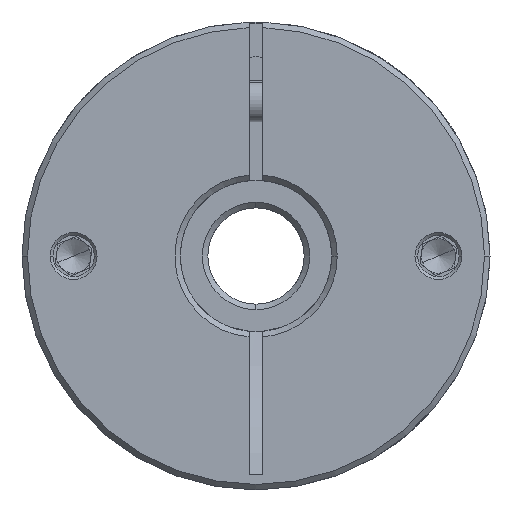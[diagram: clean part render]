
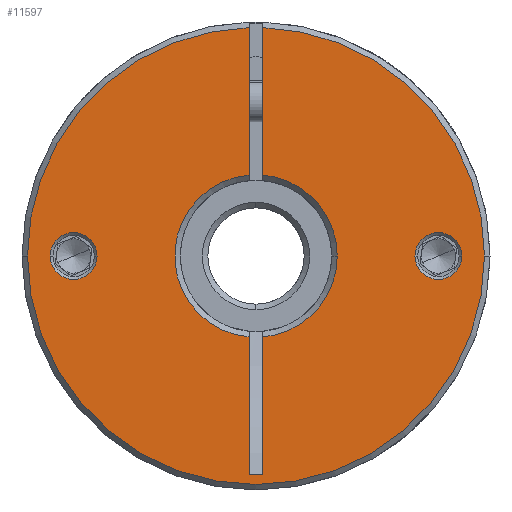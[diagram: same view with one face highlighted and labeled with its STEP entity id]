
A CAD part, front view. The second image highlights one B-rep face of the part: STEP entity #11597.
In plain terms, the highlighted planar face has unit normal (0, -1, 0).
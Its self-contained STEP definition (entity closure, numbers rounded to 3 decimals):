
#175 = CARTESIAN_POINT ( 'NONE',  ( 9.065, -47.045, 68. ) ) ;
#301 = AXIS2_PLACEMENT_3D ( 'NONE', #306, #9563, #11769 ) ;
#306 = CARTESIAN_POINT ( 'NONE',  ( -2.735, -47.045, 68. ) ) ;
#312 = DIRECTION ( 'NONE',  ( 1., 0., 0. ) ) ;
#363 = VERTEX_POINT ( 'NONE', #12002 ) ;
#426 = VERTEX_POINT ( 'NONE', #5881 ) ;
#477 = ORIENTED_EDGE ( 'NONE', *, *, #3229, .T. ) ;
#646 = FACE_OUTER_BOUND ( 'NONE', #4976, .T. ) ;
#742 = CARTESIAN_POINT ( 'NONE',  ( -29.235, -47.045, 68. ) ) ;
#759 = AXIS2_PLACEMENT_3D ( 'NONE', #6742, #11030, #4804 ) ;
#805 = CARTESIAN_POINT ( 'NONE',  ( -3.735, -47.045, 68. ) ) ;
#834 = AXIS2_PLACEMENT_3D ( 'NONE', #742, #7193, #2922 ) ;
#862 = DIRECTION ( 'NONE',  ( 1., 0., 0. ) ) ;
#958 = CARTESIAN_POINT ( 'NONE',  ( -1.735, -47.045, 68. ) ) ;
#967 = VERTEX_POINT ( 'NONE', #11043 ) ;
#997 = CARTESIAN_POINT ( 'NONE',  ( -3.735, -47.045, 79.758 ) ) ;
#1101 = ORIENTED_EDGE ( 'NONE', *, *, #5874, .T. ) ;
#1252 = VERTEX_POINT ( 'NONE', #2506 ) ;
#1343 = PLANE ( 'NONE',  #12294 ) ;
#1367 = LINE ( 'NONE', #805, #11621 ) ;
#1665 = VERTEX_POINT ( 'NONE', #7131 ) ;
#1722 = CARTESIAN_POINT ( 'NONE',  ( -35.935, -47.045, 68. ) ) ;
#1723 = CARTESIAN_POINT ( 'NONE',  ( -1.735, -47.045, 56.242 ) ) ;
#1815 = CIRCLE ( 'NONE', #3625, 3.4 ) ;
#2154 = CIRCLE ( 'NONE', #11571, 3.4 ) ;
#2387 = CARTESIAN_POINT ( 'NONE',  ( -1.735, -47.045, 79.758 ) ) ;
#2422 = CARTESIAN_POINT ( 'NONE',  ( -2.735, -47.045, 68. ) ) ;
#2506 = CARTESIAN_POINT ( 'NONE',  ( -1.735, -47.045, 101.185 ) ) ;
#2617 = AXIS2_PLACEMENT_3D ( 'NONE', #2969, #12305, #8149 ) ;
#2747 = AXIS2_PLACEMENT_3D ( 'NONE', #12791, #3386, #312 ) ;
#2922 = DIRECTION ( 'NONE',  ( 1., 0., 0. ) ) ;
#2969 = CARTESIAN_POINT ( 'NONE',  ( -29.235, -47.045, 68. ) ) ;
#3229 = EDGE_CURVE ( 'NONE', #12648, #6741, #4958, .T. ) ;
#3386 = DIRECTION ( 'NONE',  ( 0., -1., 0. ) ) ;
#3459 = CARTESIAN_POINT ( 'NONE',  ( -3.735, -47.045, 101.185 ) ) ;
#3586 = DIRECTION ( 'NONE',  ( 0., -1., 0. ) ) ;
#3625 = AXIS2_PLACEMENT_3D ( 'NONE', #8136, #8093, #4025 ) ;
#3788 = CIRCLE ( 'NONE', #301, 11.8 ) ;
#3854 = EDGE_CURVE ( 'NONE', #6741, #11503, #11943, .T. ) ;
#3890 = CIRCLE ( 'NONE', #759, 11.8 ) ;
#4025 = DIRECTION ( 'NONE',  ( 1., 0., 0. ) ) ;
#4189 = CARTESIAN_POINT ( 'NONE',  ( -32.635, -47.045, 68. ) ) ;
#4353 = DIRECTION ( 'NONE',  ( 0., 1., 0. ) ) ;
#4362 = VECTOR ( 'NONE', #6152, 1000. ) ;
#4401 = CARTESIAN_POINT ( 'NONE',  ( 23.765, -47.045, 68. ) ) ;
#4405 = ORIENTED_EDGE ( 'NONE', *, *, #5947, .T. ) ;
#4429 = CARTESIAN_POINT ( 'NONE',  ( 27.165, -47.045, 68. ) ) ;
#4804 = DIRECTION ( 'NONE',  ( 1., 0., 0. ) ) ;
#4945 = VECTOR ( 'NONE', #8165, 1000. ) ;
#4958 = CIRCLE ( 'NONE', #13475, 33.2 ) ;
#4964 = DIRECTION ( 'NONE',  ( 1., 0., 0. ) ) ;
#4976 = EDGE_LOOP ( 'NONE', ( #11125, #477, #7440, #10714, #8152, #1101, #12690, #8076, #8286, #10381, #5121 ) ) ;
#4989 = EDGE_CURVE ( 'NONE', #1665, #8736, #1815, .T. ) ;
#5008 = EDGE_CURVE ( 'NONE', #426, #9894, #13183, .T. ) ;
#5010 = CARTESIAN_POINT ( 'NONE',  ( -2.735, -47.045, 68. ) ) ;
#5101 = CARTESIAN_POINT ( 'NONE',  ( -1.735, -47.045, 68. ) ) ;
#5121 = ORIENTED_EDGE ( 'NONE', *, *, #10983, .T. ) ;
#5150 = LINE ( 'NONE', #5101, #4362 ) ;
#5202 = EDGE_LOOP ( 'NONE', ( #13224, #4405 ) ) ;
#5385 = DIRECTION ( 'NONE',  ( 1., 0., 0. ) ) ;
#5506 = VERTEX_POINT ( 'NONE', #1723 ) ;
#5874 = EDGE_CURVE ( 'NONE', #9639, #8561, #10568, .T. ) ;
#5881 = CARTESIAN_POINT ( 'NONE',  ( -3.735, -47.045, 56.242 ) ) ;
#5947 = EDGE_CURVE ( 'NONE', #9988, #967, #10723, .T. ) ;
#6049 = DIRECTION ( 'NONE',  ( 0., 0., -1. ) ) ;
#6152 = DIRECTION ( 'NONE',  ( 0., 0., -1. ) ) ;
#6210 = FACE_BOUND ( 'NONE', #5202, .T. ) ;
#6405 = EDGE_LOOP ( 'NONE', ( #11481, #11264 ) ) ;
#6733 = CIRCLE ( 'NONE', #2617, 3.4 ) ;
#6741 = VERTEX_POINT ( 'NONE', #1722 ) ;
#6742 = CARTESIAN_POINT ( 'NONE',  ( -2.735, -47.045, 68. ) ) ;
#7047 = VECTOR ( 'NONE', #7274, 1000. ) ;
#7131 = CARTESIAN_POINT ( 'NONE',  ( 20.365, -47.045, 68. ) ) ;
#7193 = DIRECTION ( 'NONE',  ( 0., 1., 0. ) ) ;
#7274 = DIRECTION ( 'NONE',  ( 0., 0., -1. ) ) ;
#7285 = EDGE_CURVE ( 'NONE', #8561, #5506, #3890, .T. ) ;
#7440 = ORIENTED_EDGE ( 'NONE', *, *, #3854, .T. ) ;
#7571 = CARTESIAN_POINT ( 'NONE',  ( 30.465, -47.045, 68. ) ) ;
#7873 = EDGE_CURVE ( 'NONE', #1252, #9639, #5150, .T. ) ;
#7898 = VERTEX_POINT ( 'NONE', #997 ) ;
#7938 = DIRECTION ( 'NONE',  ( 0., 1., 0. ) ) ;
#8076 = ORIENTED_EDGE ( 'NONE', *, *, #11359, .T. ) ;
#8093 = DIRECTION ( 'NONE',  ( 0., 1., 0. ) ) ;
#8125 = DIRECTION ( 'NONE',  ( 0., 0., -1. ) ) ;
#8136 = CARTESIAN_POINT ( 'NONE',  ( 23.765, -47.045, 68. ) ) ;
#8149 = DIRECTION ( 'NONE',  ( 1., 0., 0. ) ) ;
#8152 = ORIENTED_EDGE ( 'NONE', *, *, #7873, .T. ) ;
#8165 = DIRECTION ( 'NONE',  ( -1., 0., 0. ) ) ;
#8286 = ORIENTED_EDGE ( 'NONE', *, *, #9860, .T. ) ;
#8561 = VERTEX_POINT ( 'NONE', #175 ) ;
#8736 = VERTEX_POINT ( 'NONE', #4429 ) ;
#8899 = CARTESIAN_POINT ( 'NONE',  ( -2.735, -47.045, 68. ) ) ;
#8954 = FACE_BOUND ( 'NONE', #6405, .T. ) ;
#9008 = EDGE_CURVE ( 'NONE', #12648, #7898, #1367, .T. ) ;
#9563 = DIRECTION ( 'NONE',  ( 0., 1., 0. ) ) ;
#9639 = VERTEX_POINT ( 'NONE', #2387 ) ;
#9860 = EDGE_CURVE ( 'NONE', #363, #9894, #10487, .T. ) ;
#9894 = VERTEX_POINT ( 'NONE', #10952 ) ;
#9939 = DIRECTION ( 'NONE',  ( 1., 0., 0. ) ) ;
#9978 = CARTESIAN_POINT ( 'NONE',  ( -3.735, -47.045, 36.279 ) ) ;
#9988 = VERTEX_POINT ( 'NONE', #4189 ) ;
#10212 = CARTESIAN_POINT ( 'NONE',  ( -2.735, -47.045, 68. ) ) ;
#10381 = ORIENTED_EDGE ( 'NONE', *, *, #5008, .F. ) ;
#10487 = LINE ( 'NONE', #9978, #4945 ) ;
#10568 = CIRCLE ( 'NONE', #13319, 11.8 ) ;
#10712 = EDGE_CURVE ( 'NONE', #967, #9988, #6733, .T. ) ;
#10714 = ORIENTED_EDGE ( 'NONE', *, *, #12242, .T. ) ;
#10723 = CIRCLE ( 'NONE', #834, 3.4 ) ;
#10952 = CARTESIAN_POINT ( 'NONE',  ( -3.735, -47.045, 36.279 ) ) ;
#10983 = EDGE_CURVE ( 'NONE', #426, #7898, #3788, .T. ) ;
#10991 = DIRECTION ( 'NONE',  ( 1., 0., 0. ) ) ;
#11030 = DIRECTION ( 'NONE',  ( 0., 1., 0. ) ) ;
#11043 = CARTESIAN_POINT ( 'NONE',  ( -25.835, -47.045, 68. ) ) ;
#11125 = ORIENTED_EDGE ( 'NONE', *, *, #9008, .F. ) ;
#11264 = ORIENTED_EDGE ( 'NONE', *, *, #4989, .T. ) ;
#11359 = EDGE_CURVE ( 'NONE', #5506, #363, #11875, .T. ) ;
#11421 = CARTESIAN_POINT ( 'NONE',  ( -3.735, -47.045, 68. ) ) ;
#11481 = ORIENTED_EDGE ( 'NONE', *, *, #11970, .T. ) ;
#11503 = VERTEX_POINT ( 'NONE', #7571 ) ;
#11571 = AXIS2_PLACEMENT_3D ( 'NONE', #4401, #4353, #5385 ) ;
#11597 = ADVANCED_FACE ( 'NONE', ( #8954, #6210, #646 ), #1343, .T. ) ;
#11621 = VECTOR ( 'NONE', #6049, 1000. ) ;
#11769 = DIRECTION ( 'NONE',  ( 1., 0., 0. ) ) ;
#11827 = AXIS2_PLACEMENT_3D ( 'NONE', #5010, #13308, #862 ) ;
#11875 = LINE ( 'NONE', #958, #12526 ) ;
#11878 = CIRCLE ( 'NONE', #11827, 33.2 ) ;
#11943 = CIRCLE ( 'NONE', #2747, 33.2 ) ;
#11970 = EDGE_CURVE ( 'NONE', #8736, #1665, #2154, .T. ) ;
#12002 = CARTESIAN_POINT ( 'NONE',  ( -1.735, -47.045, 36.279 ) ) ;
#12242 = EDGE_CURVE ( 'NONE', #11503, #1252, #11878, .T. ) ;
#12294 = AXIS2_PLACEMENT_3D ( 'NONE', #2422, #3586, #9939 ) ;
#12305 = DIRECTION ( 'NONE',  ( 0., 1., 0. ) ) ;
#12325 = DIRECTION ( 'NONE',  ( 0., -1., 0. ) ) ;
#12526 = VECTOR ( 'NONE', #8125, 1000. ) ;
#12648 = VERTEX_POINT ( 'NONE', #3459 ) ;
#12690 = ORIENTED_EDGE ( 'NONE', *, *, #7285, .T. ) ;
#12791 = CARTESIAN_POINT ( 'NONE',  ( -2.735, -47.045, 68. ) ) ;
#13183 = LINE ( 'NONE', #11421, #7047 ) ;
#13224 = ORIENTED_EDGE ( 'NONE', *, *, #10712, .T. ) ;
#13308 = DIRECTION ( 'NONE',  ( 0., -1., 0. ) ) ;
#13319 = AXIS2_PLACEMENT_3D ( 'NONE', #8899, #7938, #10991 ) ;
#13475 = AXIS2_PLACEMENT_3D ( 'NONE', #10212, #12325, #4964 ) ;
